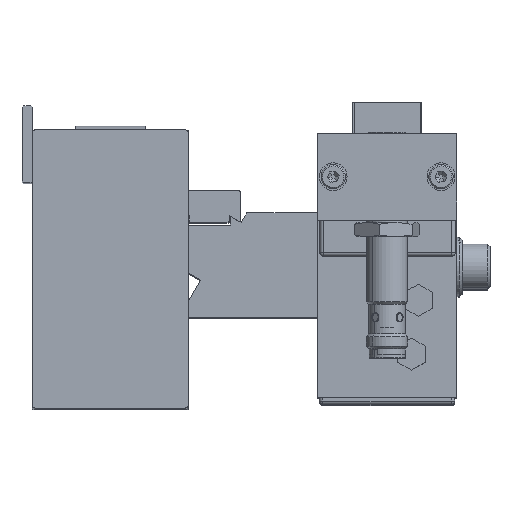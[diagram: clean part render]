
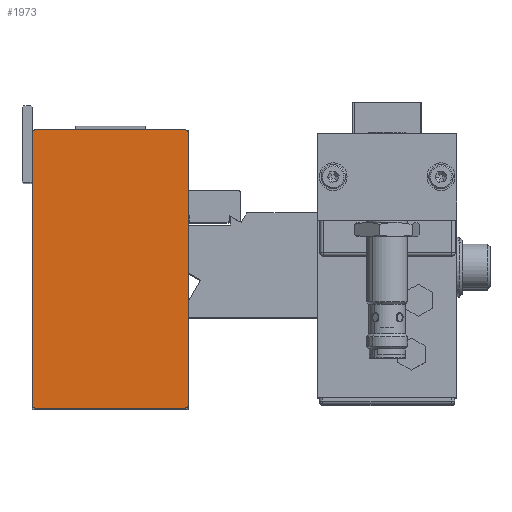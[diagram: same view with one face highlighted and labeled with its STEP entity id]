
A CAD part, top view. The second image highlights one B-rep face of the part: STEP entity #1973.
In plain terms, the highlighted planar face has unit normal (0, 0, 1).
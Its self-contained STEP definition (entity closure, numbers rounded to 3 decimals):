
#250 = ORIENTED_EDGE ( 'NONE', *, *, #10653, .T. ) ;
#1481 = ORIENTED_EDGE ( 'NONE', *, *, #35370, .T. ) ;
#1973 = ADVANCED_FACE ( 'NONE', ( #27628 ), #8330, .F. ) ;
#2569 = ORIENTED_EDGE ( 'NONE', *, *, #30780, .T. ) ;
#2690 = ORIENTED_EDGE ( 'NONE', *, *, #29196, .T. ) ;
#3279 = CARTESIAN_POINT ( 'NONE',  ( 43.9, -81.15, 153. ) ) ;
#3513 = DIRECTION ( 'NONE',  ( -1., 0., 0. ) ) ;
#3785 = DIRECTION ( 'NONE',  ( 0., 0., 1. ) ) ;
#4415 = CARTESIAN_POINT ( 'NONE',  ( -0.1, -80.15, 153. ) ) ;
#8054 = ORIENTED_EDGE ( 'NONE', *, *, #21033, .T. ) ;
#8287 = EDGE_LOOP ( 'NONE', ( #2569, #250, #9953, #33215, #2690, #8054, #19495, #1481 ) ) ;
#8330 = PLANE ( 'NONE',  #14024 ) ;
#9953 = ORIENTED_EDGE ( 'NONE', *, *, #14041, .T. ) ;
#10653 = EDGE_CURVE ( 'NONE', #32100, #25079, #33240, .T. ) ;
#13507 = VERTEX_POINT ( 'NONE', #39072 ) ;
#13696 = VERTEX_POINT ( 'NONE', #26311 ) ;
#14024 = AXIS2_PLACEMENT_3D ( 'NONE', #36911, #28028, #40343 ) ;
#14041 = EDGE_CURVE ( 'NONE', #25079, #13696, #27312, .T. ) ;
#14699 = VECTOR ( 'NONE', #18689, 1000. ) ;
#16579 = VERTEX_POINT ( 'NONE', #3279 ) ;
#17061 = AXIS2_PLACEMENT_3D ( 'NONE', #35543, #3785, #26267 ) ;
#17099 = DIRECTION ( 'NONE',  ( 0., 0., 1. ) ) ;
#18689 = DIRECTION ( 'NONE',  ( -1., 0., 0. ) ) ;
#19495 = ORIENTED_EDGE ( 'NONE', *, *, #31038, .T. ) ;
#19742 = VECTOR ( 'NONE', #20559, 1000. ) ;
#20559 = DIRECTION ( 'NONE',  ( 0., -1., 0. ) ) ;
#21033 = EDGE_CURVE ( 'NONE', #16579, #13507, #25193, .T. ) ;
#21120 = CARTESIAN_POINT ( 'NONE',  ( -0.1, -2.15, 153. ) ) ;
#21832 = CARTESIAN_POINT ( 'NONE',  ( 0.9, -1.15, 153. ) ) ;
#22542 = VERTEX_POINT ( 'NONE', #29426 ) ;
#23066 = DIRECTION ( 'NONE',  ( 0., 0., 1. ) ) ;
#24218 = VERTEX_POINT ( 'NONE', #25951 ) ;
#25000 = CARTESIAN_POINT ( 'NONE',  ( 44.9, -2.15, 153. ) ) ;
#25079 = VERTEX_POINT ( 'NONE', #21120 ) ;
#25193 = CIRCLE ( 'NONE', #34616, 1. ) ;
#25951 = CARTESIAN_POINT ( 'NONE',  ( 0.9, -81.15, 153. ) ) ;
#26267 = DIRECTION ( 'NONE',  ( -1., 0., 0. ) ) ;
#26311 = CARTESIAN_POINT ( 'NONE',  ( -0.1, -80.15, 153. ) ) ;
#26514 = AXIS2_PLACEMENT_3D ( 'NONE', #35481, #39311, #3513 ) ;
#27312 = LINE ( 'NONE', #4415, #19742 ) ;
#27628 = FACE_OUTER_BOUND ( 'NONE', #8287, .T. ) ;
#27707 = CARTESIAN_POINT ( 'NONE',  ( 44.9, -2.15, 153. ) ) ;
#27887 = CARTESIAN_POINT ( 'NONE',  ( 43.9, -81.15, 153. ) ) ;
#28028 = DIRECTION ( 'NONE',  ( 0., 0., -1. ) ) ;
#28286 = DIRECTION ( 'NONE',  ( 1., 0., 0. ) ) ;
#29196 = EDGE_CURVE ( 'NONE', #24218, #16579, #31045, .T. ) ;
#29426 = CARTESIAN_POINT ( 'NONE',  ( 43.9, -1.15, 153. ) ) ;
#29883 = CARTESIAN_POINT ( 'NONE',  ( 43.9, -80.15, 153. ) ) ;
#30780 = EDGE_CURVE ( 'NONE', #22542, #32100, #31312, .T. ) ;
#31038 = EDGE_CURVE ( 'NONE', #13507, #39496, #37193, .T. ) ;
#31045 = LINE ( 'NONE', #27887, #31284 ) ;
#31284 = VECTOR ( 'NONE', #28286, 1000. ) ;
#31312 = LINE ( 'NONE', #21832, #14699 ) ;
#32100 = VERTEX_POINT ( 'NONE', #32461 ) ;
#32461 = CARTESIAN_POINT ( 'NONE',  ( 0.9, -1.15, 153. ) ) ;
#32530 = DIRECTION ( 'NONE',  ( 1., 0., 0. ) ) ;
#32640 = DIRECTION ( 'NONE',  ( -1., 0., 0. ) ) ;
#33088 = CIRCLE ( 'NONE', #36496, 1. ) ;
#33215 = ORIENTED_EDGE ( 'NONE', *, *, #33924, .T. ) ;
#33240 = CIRCLE ( 'NONE', #26514, 1. ) ;
#33924 = EDGE_CURVE ( 'NONE', #13696, #24218, #33088, .T. ) ;
#34616 = AXIS2_PLACEMENT_3D ( 'NONE', #29883, #17099, #32640 ) ;
#34649 = DIRECTION ( 'NONE',  ( 0., 1., 0. ) ) ;
#34895 = CARTESIAN_POINT ( 'NONE',  ( 0.9, -80.15, 153. ) ) ;
#35370 = EDGE_CURVE ( 'NONE', #39496, #22542, #41296, .T. ) ;
#35481 = CARTESIAN_POINT ( 'NONE',  ( 0.9, -2.15, 153. ) ) ;
#35543 = CARTESIAN_POINT ( 'NONE',  ( 43.9, -2.15, 153. ) ) ;
#36239 = VECTOR ( 'NONE', #34649, 1000. ) ;
#36496 = AXIS2_PLACEMENT_3D ( 'NONE', #34895, #23066, #32530 ) ;
#36911 = CARTESIAN_POINT ( 'NONE',  ( 0.9, -2.15, 153. ) ) ;
#37193 = LINE ( 'NONE', #27707, #36239 ) ;
#39072 = CARTESIAN_POINT ( 'NONE',  ( 44.9, -80.15, 153. ) ) ;
#39311 = DIRECTION ( 'NONE',  ( 0., 0., 1. ) ) ;
#39496 = VERTEX_POINT ( 'NONE', #25000 ) ;
#40343 = DIRECTION ( 'NONE',  ( -1., 0., 0. ) ) ;
#41296 = CIRCLE ( 'NONE', #17061, 1. ) ;
